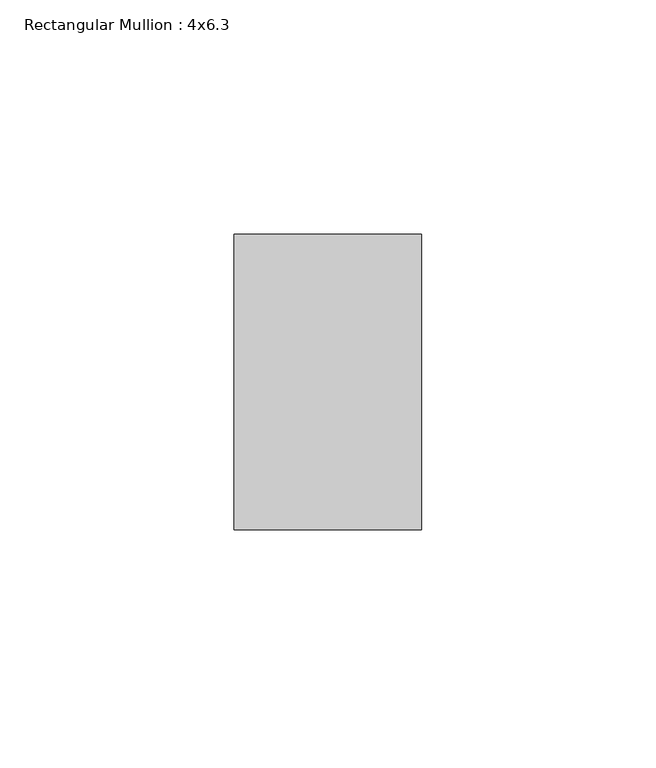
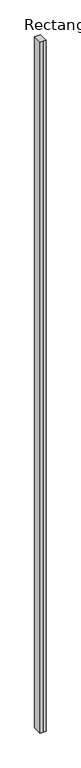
"""IFC4 building model written with IfcOpenShell, lengths in millimetres: member geometry, Rectangular Mullion : 4x6.3."""

import ifcopenshell
import ifcopenshell.guid

model = None  # the IFC model being written
_history = None  # IfcOwnerHistory: only IFC2X3 demands one
_inside = {}  # id of a spatial element -> (the spatial element, [elements in it])
_under = {}  # id of a project, library or spatial element -> (it, [spatial elements below it])
_declared = {}  # id of a project -> (the project, [libraries it declares])
_typed = {}  # id of a type object -> (the type object, [elements of that type])
_made_of = {}  # id of a material, layer set ... -> (it, [elements and type objects made of it])


def new_model(schema):
    """Start an empty IFC model of exactly this schema.

    Asked for "IFC4X3", IfcOpenShell would pick the latest addendum, in which some entities
    have other attributes; the version numbers below select the first issue.
    IFC2X3 requires an IfcOwnerHistory on every rooted entity: one is made here for all.
    """
    global model, _history
    if schema == "IFC4X3":
        model = ifcopenshell.file(schema_version=(4, 3, 0, 0))
    else:
        model = ifcopenshell.file(schema=schema)
    _inside.clear()
    _under.clear()
    _declared.clear()
    _typed.clear()
    _made_of.clear()
    _history = None
    if model.schema == "IFC2X3":
        org = make("IfcOrganization", Name="unknown")
        user = make(
            "IfcPersonAndOrganization",
            ThePerson=make("IfcPerson", FamilyName="unknown"),
            TheOrganization=org,
        )
        app = make(
            "IfcApplication",
            ApplicationDeveloper=org,
            Version="unknown",
            ApplicationFullName="unknown",
            ApplicationIdentifier="unknown",
        )
        _history = make(
            "IfcOwnerHistory",
            OwningUser=user,
            OwningApplication=app,
            ChangeAction="ADDED",
            CreationDate=0,
        )
    return model


def make(cls, **values):
    """One entity of the class cls with the attributes given. An attribute that is None is left unset."""
    return model.create_entity(
        cls, **{name: value for name, value in values.items() if value is not None}
    )


def rooted(cls, **values):
    """An entity with a GlobalId (a new one), such as an element, a storey or a relation."""
    return make(cls, GlobalId=ifcopenshell.guid.new(), OwnerHistory=_history, **values)


def si_unit(unit_type, name, prefix=None):
    """IfcSIUnit, for example si_unit("LENGTHUNIT", "METRE", prefix="MILLI")."""
    return make("IfcSIUnit", UnitType=unit_type, Prefix=prefix, Name=name)


def assignment(units):
    """IfcUnitAssignment: the units of a project."""
    return None if units is None else make("IfcUnitAssignment", Units=units)


def point(xyz):
    """IfcCartesianPoint."""
    return None if xyz is None else make("IfcCartesianPoint", Coordinates=xyz)


def direction(xyz):
    """IfcDirection."""
    return None if xyz is None else make("IfcDirection", DirectionRatios=xyz)


def frame(location, z_axis=None, x_axis=None):
    """IfcAxis2Placement3D, a coordinate frame: its origin and axes. An axis left out is left unset."""
    return make(
        "IfcAxis2Placement3D",
        Location=point(location),
        Axis=direction(z_axis),
        RefDirection=direction(x_axis),
    )


def origin():
    """The frame at (0, 0, 0) with its axes left unset."""
    return frame((0.0, 0.0, 0.0))


def place(relative_to, where):
    """IfcLocalPlacement: puts the frame where relative to a parent placement (None: the world)."""
    return make(
        "IfcLocalPlacement", PlacementRelTo=relative_to, RelativePlacement=where
    )


def context(
    kind, dimensions, precision=None, world=None, true_north=None, identifier=None
):
    """IfcGeometricRepresentationContext, for example the 3D "Model" context."""
    return make(
        "IfcGeometricRepresentationContext",
        ContextIdentifier=identifier,
        ContextType=kind,
        CoordinateSpaceDimension=dimensions,
        Precision=precision,
        WorldCoordinateSystem=world,
        TrueNorth=true_north,
    )


def project(units=None, contexts=None):
    """IfcProject with its units and contexts."""
    return rooted(
        "IfcProject",
        Name="project",
        RepresentationContexts=contexts,
        UnitsInContext=assignment(units),
    )


def spatial(cls, under=None, at=None, **own):
    """A site, building, storey or space (cls), placed at a placement, below another one or the project."""
    s = rooted(cls, ObjectPlacement=at, **own)
    if under is not None:
        _under.setdefault(under.id(), (under, []))[1].append(s)
    return s


def polyline(points):
    """IfcPolyline through the points."""
    return make("IfcPolyline", Points=[point(p) for p in points])


def outline(outer, holes=None, kind="AREA"):
    """IfcArbitraryClosedProfileDef: a profile drawn as a closed curve; with holes, ...WithVoids."""
    if holes is None:
        return make("IfcArbitraryClosedProfileDef", ProfileType=kind, OuterCurve=outer)
    return make(
        "IfcArbitraryProfileDefWithVoids",
        ProfileType=kind,
        OuterCurve=outer,
        InnerCurves=holes,
    )


def extrude(swept, where, along, depth):
    """IfcExtrudedAreaSolid: the profile swept, set in the frame where, extruded along a direction by depth."""
    return make(
        "IfcExtrudedAreaSolid",
        SweptArea=swept,
        Position=where,
        ExtrudedDirection=direction(along),
        Depth=depth,
    )


def shape(context_of_items, identifier, shape_type, items):
    """IfcShapeRepresentation: the items that make up one representation, for example the "Body"."""
    return make(
        "IfcShapeRepresentation",
        ContextOfItems=context_of_items,
        RepresentationIdentifier=identifier,
        RepresentationType=shape_type,
        Items=items,
    )


def source(mapping_origin, context_of_items, identifier, shape_type, items):
    """IfcRepresentationMap: a shape defined once, which mapped items show again and again."""
    return make(
        "IfcRepresentationMap",
        MappingOrigin=mapping_origin,
        MappedRepresentation=shape(context_of_items, identifier, shape_type, items),
    )


def transform(
    local_origin,
    x_axis=None,
    y_axis=None,
    z_axis=None,
    scale=None,
    scale2=None,
    scale3=None,
    uniform=True,
):
    """IfcCartesianTransformationOperator3D, or its non-uniform kind. x_axis, y_axis, z_axis: its Axis1, 2, 3."""
    if uniform:
        return make(
            "IfcCartesianTransformationOperator3D",
            Axis1=direction(x_axis),
            Axis2=direction(y_axis),
            LocalOrigin=point(local_origin),
            Scale=scale,
            Axis3=direction(z_axis),
        )
    return make(
        "IfcCartesianTransformationOperator3DnonUniform",
        Axis1=direction(x_axis),
        Axis2=direction(y_axis),
        LocalOrigin=point(local_origin),
        Scale=scale,
        Axis3=direction(z_axis),
        Scale2=scale2,
        Scale3=scale3,
    )


def mapped(mapping_source, mapping_target):
    """IfcMappedItem: shows the shape of a source again, moved by a transform."""
    return make(
        "IfcMappedItem", MappingSource=mapping_source, MappingTarget=mapping_target
    )


def made_of(thing, what):
    """Note that an element or type object is made of a material, layer set ...; save() writes the relation."""
    if what is not None:
        _made_of.setdefault(what.id(), (what, []))[1].append(thing)
    return thing


def element(
    cls,
    number,
    at=None,
    inside=None,
    cuts=None,
    type_object=None,
    material=None,
    context=None,
    identifier="Body",
    shape_type=None,
    held_by="IfcProductDefinitionShape",
    body=None,
    shapes=None,
    **own,
):
    """One element of the class cls, such as IfcWall. Its Tag is "e" and its number.

    at: its placement. inside: the storey or other place that contains it. cuts: it is an
    opening in that element (IfcRelVoidsElement). A single representation is given by context,
    identifier, shape_type and body (its items); several are given by shapes. held_by: the class
    of the entity that holds the representations. save() writes the other relations.
    """
    e = rooted(cls, Tag="e%d" % number, ObjectPlacement=at, **own)
    if body is not None:
        shapes = [shape(context, identifier, shape_type, body)]
    if shapes is not None:
        e.Representation = make(held_by, Representations=shapes)
    if inside is not None:
        _inside.setdefault(inside.id(), (inside, []))[1].append(e)
    if cuts is not None:
        rooted(
            "IfcRelVoidsElement", RelatingBuildingElement=cuts, RelatedOpeningElement=e
        )
    if type_object is not None:
        _typed.setdefault(type_object.id(), (type_object, []))[1].append(e)
    return made_of(e, material)


def aggregate(whole, parts):
    """IfcRelAggregates: a whole, such as a stair, and the parts it consists of."""
    return rooted("IfcRelAggregates", RelatingObject=whole, RelatedObjects=parts)


def save(model, path):
    """Write the relations noted so far, then the file.

    IfcRelAggregates (storeys below a building ...), IfcRelContainedInSpatialStructure (elements
    in a storey), IfcRelDefinesByType, IfcRelAssociatesMaterial and IfcRelDeclares: one each for
    every whole, place, type object, material and project.
    """
    for whole, parts in _under.values():
        aggregate(whole, parts)
    for where, things in _inside.values():
        rooted(
            "IfcRelContainedInSpatialStructure",
            RelatedElements=things,
            RelatingStructure=where,
        )
    for kind, things in _typed.values():
        rooted("IfcRelDefinesByType", RelatedObjects=things, RelatingType=kind)
    for what, things in _made_of.values():
        rooted("IfcRelAssociatesMaterial", RelatedObjects=things, RelatingMaterial=what)
    for by, libraries in _declared.values():
        rooted("IfcRelDeclares", RelatingContext=by, RelatedDefinitions=libraries)
    model.write(path)


def rectangular_mullion_4x6_3_14b27580(model_context):
    return source(origin(), model_context, "Body", "SweptSolid", [
        extrude(outline(polyline([(-20.0, 20.0), (-20.0, 83.0), (20.0, 83.0), (20.0, 20.0), (0.0, 20.0), (-20.0, 20.0)])), frame((0.0, 0.0, -4895.1279854), z_axis=(0.0, 0.0, 1.0), x_axis=(1.0, 0.0, 0.0)), (0.0, 0.0, 1.0), 4895.1279854),
    ])


if __name__ == "__main__":
    model = new_model("IFC4")
    model_context = context("Model", 3, world=origin())
    ifc_project = project(units=[si_unit("LENGTHUNIT", "METRE", prefix="MILLI")], contexts=[model_context])
    site = spatial("IfcSite", under=ifc_project)
    building = spatial("IfcBuilding", under=site)
    placement = place(None, origin())
    rectangular_mullion_4x6_3_shape = rectangular_mullion_4x6_3_14b27580(model_context)
    element("IfcMember", 1, ObjectType="Rectangular Mullion : 4x6.3", at=placement, inside=building, context=model_context, shape_type="MappedRepresentation", body=[
        mapped(rectangular_mullion_4x6_3_shape, transform((0.0, 0.0, 0.0), x_axis=(1.0, 0.0, 0.0), y_axis=(0.0, 1.0, 0.0), z_axis=(0.0, 0.0, 1.0))),
    ])
    save(model, "model.ifc")
